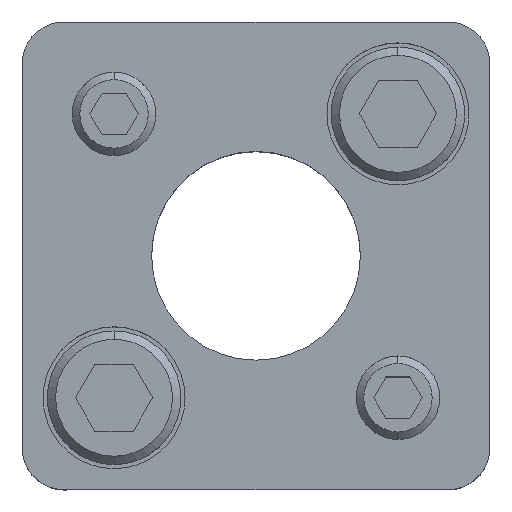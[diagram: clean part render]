
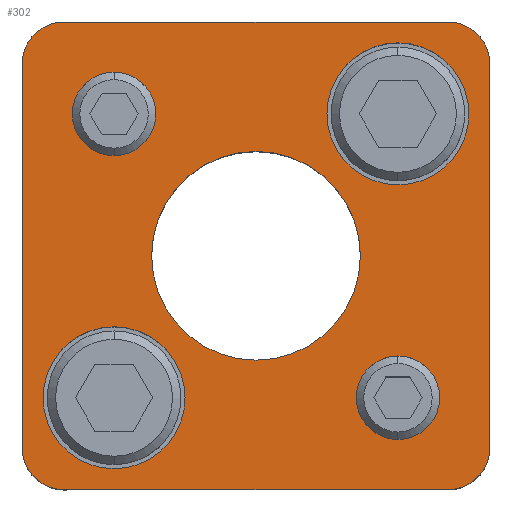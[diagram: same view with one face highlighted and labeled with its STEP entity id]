
A CAD part, top view. The second image highlights one B-rep face of the part: STEP entity #302.
In plain terms, the highlighted planar face has unit normal (0, 0, 1).
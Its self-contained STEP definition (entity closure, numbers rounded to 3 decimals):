
#161=PLANE('',#2460);
#224=FACE_BOUND('',#627,.T.);
#225=FACE_BOUND('',#628,.T.);
#226=FACE_BOUND('',#629,.T.);
#227=FACE_BOUND('',#630,.T.);
#228=FACE_BOUND('',#631,.T.);
#229=FACE_BOUND('',#632,.T.);
#302=ADVANCED_FACE('',(#224,#225,#226,#227,#228,#229),#161,.T.);
#627=EDGE_LOOP('',(#1277,#1278,#1279,#1280,#1281,#1282,#1283,#1284));
#628=EDGE_LOOP('',(#1285,#1286));
#629=EDGE_LOOP('',(#1287,#1288));
#630=EDGE_LOOP('',(#1289,#1290));
#631=EDGE_LOOP('',(#1291,#1292));
#632=EDGE_LOOP('',(#1293,#1294));
#779=LINE('',#3601,#949);
#780=LINE('',#3605,#950);
#781=LINE('',#3609,#951);
#782=LINE('',#3613,#952);
#949=VECTOR('',#2877,1.);
#950=VECTOR('',#2880,1.);
#951=VECTOR('',#2883,1.);
#952=VECTOR('',#2886,1.);
#1277=ORIENTED_EDGE('',*,*,#2005,.T.);
#1278=ORIENTED_EDGE('',*,*,#2006,.T.);
#1279=ORIENTED_EDGE('',*,*,#2007,.T.);
#1280=ORIENTED_EDGE('',*,*,#2008,.T.);
#1281=ORIENTED_EDGE('',*,*,#2009,.T.);
#1282=ORIENTED_EDGE('',*,*,#2010,.T.);
#1283=ORIENTED_EDGE('',*,*,#2011,.T.);
#1284=ORIENTED_EDGE('',*,*,#2012,.T.);
#1285=ORIENTED_EDGE('',*,*,#2013,.F.);
#1286=ORIENTED_EDGE('',*,*,#2014,.F.);
#1287=ORIENTED_EDGE('',*,*,#2015,.F.);
#1288=ORIENTED_EDGE('',*,*,#2016,.F.);
#1289=ORIENTED_EDGE('',*,*,#1991,.F.);
#1290=ORIENTED_EDGE('',*,*,#1987,.F.);
#1291=ORIENTED_EDGE('',*,*,#1985,.F.);
#1292=ORIENTED_EDGE('',*,*,#1981,.F.);
#1293=ORIENTED_EDGE('',*,*,#2017,.T.);
#1294=ORIENTED_EDGE('',*,*,#2018,.T.);
#1755=VERTEX_POINT('',#3549);
#1756=VERTEX_POINT('',#3550);
#1759=VERTEX_POINT('',#3562);
#1760=VERTEX_POINT('',#3563);
#1771=VERTEX_POINT('',#3599);
#1772=VERTEX_POINT('',#3600);
#1773=VERTEX_POINT('',#3602);
#1774=VERTEX_POINT('',#3604);
#1775=VERTEX_POINT('',#3606);
#1776=VERTEX_POINT('',#3608);
#1777=VERTEX_POINT('',#3610);
#1778=VERTEX_POINT('',#3612);
#1779=VERTEX_POINT('',#3615);
#1780=VERTEX_POINT('',#3616);
#1781=VERTEX_POINT('',#3619);
#1782=VERTEX_POINT('',#3620);
#1783=VERTEX_POINT('',#3623);
#1784=VERTEX_POINT('',#3624);
#1981=EDGE_CURVE('',#1755,#1756,#2255,.T.);
#1985=EDGE_CURVE('',#1756,#1755,#2257,.T.);
#1987=EDGE_CURVE('',#1759,#1760,#2259,.T.);
#1991=EDGE_CURVE('',#1760,#1759,#2261,.T.);
#2005=EDGE_CURVE('',#1771,#1772,#2271,.T.);
#2006=EDGE_CURVE('',#1772,#1773,#779,.T.);
#2007=EDGE_CURVE('',#1773,#1774,#2272,.T.);
#2008=EDGE_CURVE('',#1774,#1775,#780,.T.);
#2009=EDGE_CURVE('',#1775,#1776,#2273,.T.);
#2010=EDGE_CURVE('',#1776,#1777,#781,.T.);
#2011=EDGE_CURVE('',#1777,#1778,#2274,.T.);
#2012=EDGE_CURVE('',#1778,#1771,#782,.T.);
#2013=EDGE_CURVE('',#1779,#1780,#2275,.T.);
#2014=EDGE_CURVE('',#1780,#1779,#2276,.T.);
#2015=EDGE_CURVE('',#1781,#1782,#2277,.T.);
#2016=EDGE_CURVE('',#1782,#1781,#2278,.T.);
#2017=EDGE_CURVE('',#1783,#1784,#2279,.T.);
#2018=EDGE_CURVE('',#1784,#1783,#2280,.T.);
#2255=CIRCLE('',#2424,5.);
#2257=CIRCLE('',#2427,5.);
#2259=CIRCLE('',#2431,5.);
#2261=CIRCLE('',#2434,5.);
#2271=CIRCLE('',#2450,5.);
#2272=CIRCLE('',#2451,5.);
#2273=CIRCLE('',#2452,5.);
#2274=CIRCLE('',#2453,5.);
#2275=CIRCLE('',#2454,8.5);
#2276=CIRCLE('',#2455,8.5);
#2277=CIRCLE('',#2456,8.5);
#2278=CIRCLE('',#2457,8.5);
#2279=CIRCLE('',#2458,12.5);
#2280=CIRCLE('',#2459,12.5);
#2424=AXIS2_PLACEMENT_3D('',#3548,#2815,#2816);
#2427=AXIS2_PLACEMENT_3D('',#3557,#2823,#2824);
#2431=AXIS2_PLACEMENT_3D('',#3561,#2831,#2832);
#2434=AXIS2_PLACEMENT_3D('',#3570,#2839,#2840);
#2450=AXIS2_PLACEMENT_3D('',#3598,#2875,#2876);
#2451=AXIS2_PLACEMENT_3D('',#3603,#2878,#2879);
#2452=AXIS2_PLACEMENT_3D('',#3607,#2881,#2882);
#2453=AXIS2_PLACEMENT_3D('',#3611,#2884,#2885);
#2454=AXIS2_PLACEMENT_3D('',#3614,#2887,#2888);
#2455=AXIS2_PLACEMENT_3D('',#3617,#2889,#2890);
#2456=AXIS2_PLACEMENT_3D('',#3618,#2891,#2892);
#2457=AXIS2_PLACEMENT_3D('',#3621,#2893,#2894);
#2458=AXIS2_PLACEMENT_3D('',#3622,#2895,#2896);
#2459=AXIS2_PLACEMENT_3D('',#3625,#2897,#2898);
#2460=AXIS2_PLACEMENT_3D('',#3626,#2899,#2900);
#2815=DIRECTION('',(0.,0.,1.));
#2816=DIRECTION('',(-1.,0.,0.));
#2823=DIRECTION('',(0.,0.,1.));
#2824=DIRECTION('',(1.,0.,0.));
#2831=DIRECTION('',(0.,0.,1.));
#2832=DIRECTION('',(-1.,0.,0.));
#2839=DIRECTION('',(0.,0.,1.));
#2840=DIRECTION('',(1.,0.,0.));
#2875=DIRECTION('',(0.,0.,1.));
#2876=DIRECTION('',(-0.707,0.707,0.));
#2877=DIRECTION('',(0.,1.,0.));
#2878=DIRECTION('',(0.,0.,1.));
#2879=DIRECTION('',(-0.707,-0.707,0.));
#2880=DIRECTION('',(-1.,0.,0.));
#2881=DIRECTION('',(0.,0.,1.));
#2882=DIRECTION('',(0.707,-0.707,0.));
#2883=DIRECTION('',(0.,-1.,0.));
#2884=DIRECTION('',(0.,0.,1.));
#2885=DIRECTION('',(0.707,0.707,0.));
#2886=DIRECTION('',(1.,0.,0.));
#2887=DIRECTION('',(0.,0.,1.));
#2888=DIRECTION('',(1.,0.,0.));
#2889=DIRECTION('',(0.,0.,1.));
#2890=DIRECTION('',(-1.,0.,0.));
#2891=DIRECTION('',(0.,0.,1.));
#2892=DIRECTION('',(1.,0.,0.));
#2893=DIRECTION('',(0.,0.,1.));
#2894=DIRECTION('',(-1.,0.,0.));
#2895=DIRECTION('',(0.,0.,-1.));
#2896=DIRECTION('',(-1.,0.,0.));
#2897=DIRECTION('',(0.,0.,-1.));
#2898=DIRECTION('',(1.,0.,0.));
#2899=DIRECTION('',(0.,0.,1.));
#2900=DIRECTION('',(-1.,0.,0.));
#3548=CARTESIAN_POINT('',(17.,-17.,30.));
#3549=CARTESIAN_POINT('',(17.,-22.,30.));
#3550=CARTESIAN_POINT('',(17.,-12.,30.));
#3557=CARTESIAN_POINT('',(17.,-17.,30.));
#3561=CARTESIAN_POINT('',(-17.,17.,30.));
#3562=CARTESIAN_POINT('',(-17.,12.,30.));
#3563=CARTESIAN_POINT('',(-17.,22.,30.));
#3570=CARTESIAN_POINT('',(-17.,17.,30.));
#3598=CARTESIAN_POINT('',(23.,-23.,30.));
#3599=CARTESIAN_POINT('',(23.,-28.,30.));
#3600=CARTESIAN_POINT('',(28.,-23.,30.));
#3601=CARTESIAN_POINT('',(28.,23.,30.));
#3602=CARTESIAN_POINT('',(28.,23.,30.));
#3603=CARTESIAN_POINT('',(23.,23.,30.));
#3604=CARTESIAN_POINT('',(23.,28.,30.));
#3605=CARTESIAN_POINT('',(-23.,28.,30.));
#3606=CARTESIAN_POINT('',(-23.,28.,30.));
#3607=CARTESIAN_POINT('',(-23.,23.,30.));
#3608=CARTESIAN_POINT('',(-28.,23.,30.));
#3609=CARTESIAN_POINT('',(-28.,23.,30.));
#3610=CARTESIAN_POINT('',(-28.,-23.,30.));
#3611=CARTESIAN_POINT('',(-23.,-23.,30.));
#3612=CARTESIAN_POINT('',(-23.,-28.,30.));
#3613=CARTESIAN_POINT('',(-23.,-28.,30.));
#3614=CARTESIAN_POINT('',(17.,17.,30.));
#3615=CARTESIAN_POINT('',(17.,25.5,30.));
#3616=CARTESIAN_POINT('',(17.,8.5,30.));
#3617=CARTESIAN_POINT('',(17.,17.,30.));
#3618=CARTESIAN_POINT('',(-17.,-17.,30.));
#3619=CARTESIAN_POINT('',(-17.,-8.5,30.));
#3620=CARTESIAN_POINT('',(-17.,-25.5,30.));
#3621=CARTESIAN_POINT('',(-17.,-17.,30.));
#3622=CARTESIAN_POINT('',(0.,0.,30.));
#3623=CARTESIAN_POINT('',(0.,12.5,30.));
#3624=CARTESIAN_POINT('',(0.,-12.5,30.));
#3625=CARTESIAN_POINT('',(0.,0.,30.));
#3626=CARTESIAN_POINT('',(23.,-28.,30.));
